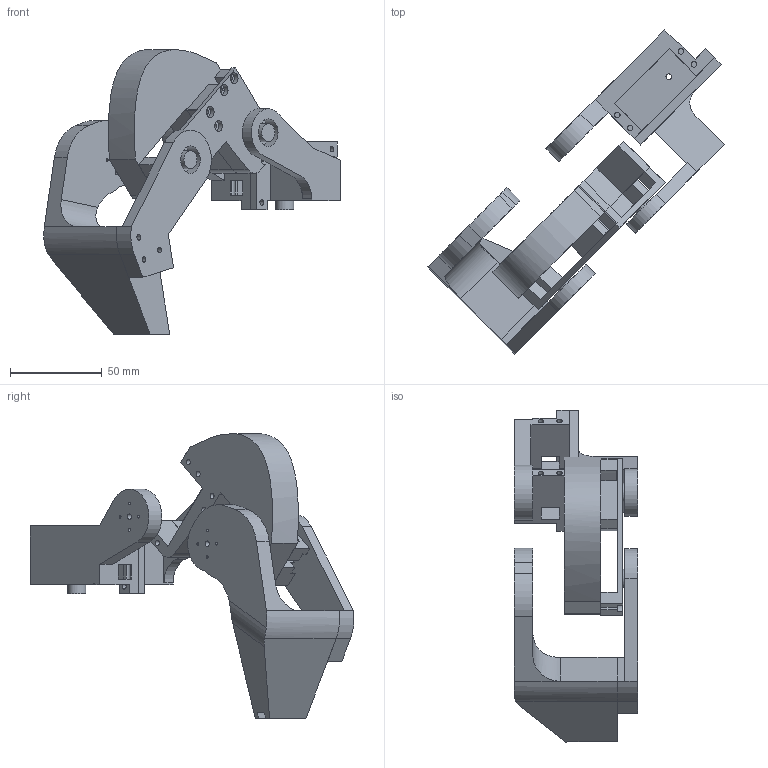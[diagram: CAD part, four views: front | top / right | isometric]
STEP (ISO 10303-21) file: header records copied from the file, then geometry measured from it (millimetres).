
FILE_DESCRIPTION(/* description */ (''),/* implementation_level */ '2;1');
FILE_NAME(/* name */ 'Octobot_Leg.step',/* time_stamp */ '2026-07-17T22:57:11+03:00',/* author */ (''),/* organization */ (''),/* preprocessor_version */ 'ST-DEVELOPER v20.1',/* originating_system */ 'Autodesk Translation Framework v15.8.0.0',/* authorisation */ '');
FILE_SCHEMA (('AUTOMOTIVE_DESIGN { 1 0 10303 214 3 1 1 }'));
Length unit declared in the file: millimetre
Products named in the file (7): robert ahh; art 3 st (1); art 2 st (1); Component3; Component4; art 1 st (1); Component6
Assembly tree (6 placements, depth 2):
  robert ahh
    art 3 st (1)
    art 2 st (1)
    Component3
    Component4
    art 1 st (1)
    Component6
Bounding box: 161.36 x 176.35 x 154.88 mm (x, y, z)
Volume: 245101.9 mm3; surface area: 77598.2 mm2
Topology: 6 solids, 6 shells, 248 faces, 701 edges, 461 vertices
Faces by surface type: plane 163, cylinder 84, bspline 1
Full cylindrical faces by diameter (mm): 1.5 x8, 3 x35, 6 x4, 8 x2, 10 x3, 15 x2
Entity records: 8534 total; most frequent: CARTESIAN_POINT 1536, ORIENTED_EDGE 1402, DIRECTION 1392, EDGE_CURVE 701, LINE 518, VECTOR 518, VERTEX_POINT 461, AXIS2_PLACEMENT_3D 437
